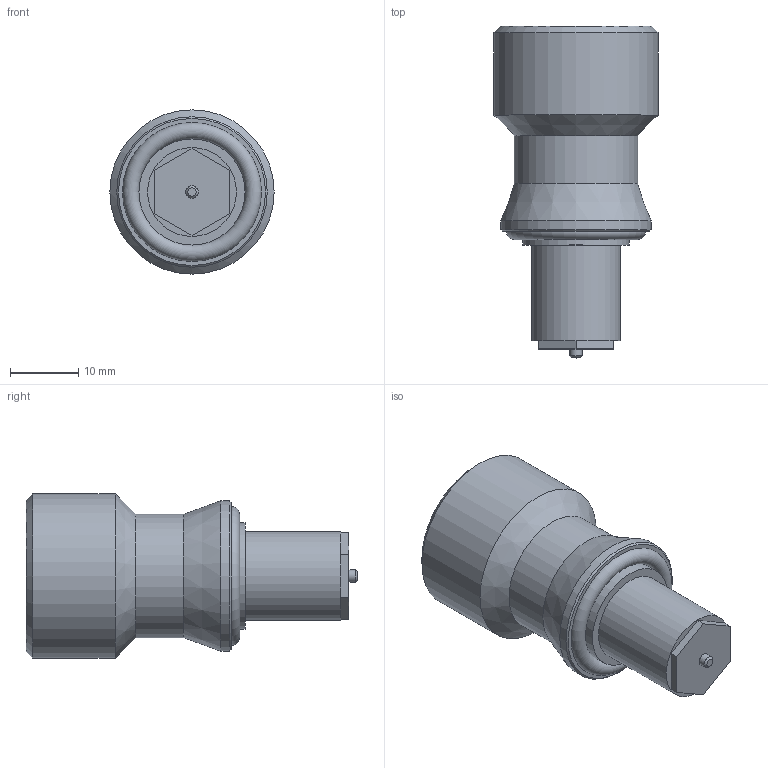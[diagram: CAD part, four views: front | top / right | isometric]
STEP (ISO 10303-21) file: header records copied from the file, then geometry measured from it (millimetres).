
FILE_DESCRIPTION( ( 'STEP AP214' ), '1' );
FILE_NAME( 'W:/01-Department/073-PAS-ST/40-Departments/02 eCommerce/STEP/7716 5006-00.stp', '2019-07-02T09:47:16', ( '' ), ( '' ), ' ', 'PARTsolutions', ' ' );
FILE_SCHEMA( ( 'AUTOMOTIVE_DESIGN { 1 0 10303 214 1 1 1 1 }' ) );
Length unit declared in the file: millimetre
Products named in the file (1): _HAWE RHC 3 (3V)
Bounding box: 24 x 48.5 x 24 mm (x, y, z)
Volume: 13073.9 mm3; surface area: 3857.4 mm2
Topology: 1 solids, 1 shells, 31 faces, 65 edges, 41 vertices
Faces by surface type: plane 19, cylinder 6, cone 5, torus 1
Full cylindrical faces by diameter (mm): 1.8 x1, 13 x1, 15.5 x1, 18 x1, 21.98 x1, 24 x1
Entity records: 1014 total; most frequent: DIRECTION 132, CARTESIAN_POINT 124, ORIENTED_EDGE 104, EDGE_CURVE 52, AXIS2_PLACEMENT_3D 48, EDGE_LOOP 48, VERTEX_POINT 40, FACE_OUTER_BOUND 38
